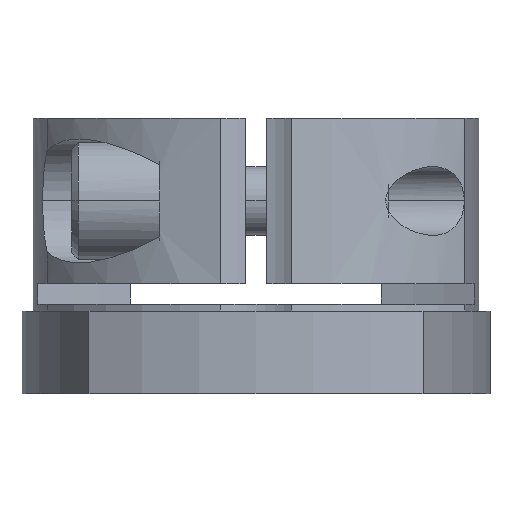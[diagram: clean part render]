
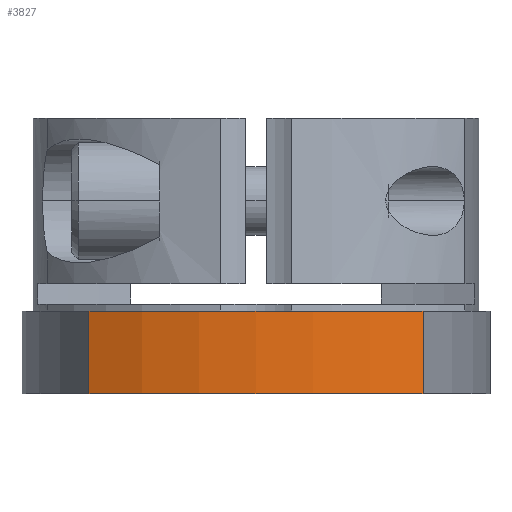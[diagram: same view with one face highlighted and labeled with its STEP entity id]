
A CAD part, front view. The second image highlights one B-rep face of the part: STEP entity #3827.
In plain terms, the highlighted cylindrical face has radius 27.5 mm (diameter 55 mm), a partial arc.
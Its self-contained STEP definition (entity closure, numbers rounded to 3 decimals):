
#2926=CARTESIAN_POINT('',(-12.133,-24.679,3.0));
#2927=VERTEX_POINT('',#2926);
#2935=CARTESIAN_POINT('',(12.133,-24.679,3.0));
#2936=VERTEX_POINT('',#2935);
#2937=CARTESIAN_POINT('',(0.,0.,3.0));
#2938=DIRECTION('',(0.0,0.0,-1.0));
#2939=DIRECTION('',(1.0,0.0,0.0));
#2940=AXIS2_PLACEMENT_3D('',#2937,#2938,#2939);
#2941=CIRCLE('',#2940,27.5);
#2942=EDGE_CURVE('',#2936,#2927,#2941,.T.);
#3660=CARTESIAN_POINT('',(12.133,-24.679,-3.0));
#3661=VERTEX_POINT('',#3660);
#3662=CARTESIAN_POINT('',(-12.133,-24.679,-3.0));
#3663=VERTEX_POINT('',#3662);
#3664=CARTESIAN_POINT('',(0.,0.,-3.0));
#3665=DIRECTION('',(0.0,0.0,-1.0));
#3666=DIRECTION('',(1.0,0.0,0.0));
#3667=AXIS2_PLACEMENT_3D('',#3664,#3665,#3666);
#3668=CIRCLE('',#3667,27.5);
#3669=EDGE_CURVE('',#3661,#3663,#3668,.T.);
#3777=CARTESIAN_POINT('',(-12.133,-24.679,-3.0));
#3778=DIRECTION('',(0.0,0.0,1.0));
#3779=VECTOR('',#3778,6.0);
#3780=LINE('',#3777,#3779);
#3781=EDGE_CURVE('',#3663,#2927,#3780,.T.);
#3806=CARTESIAN_POINT('',(12.133,-24.679,-3.0));
#3807=DIRECTION('',(0.0,0.0,1.0));
#3808=VECTOR('',#3807,6.0);
#3809=LINE('',#3806,#3808);
#3810=EDGE_CURVE('',#3661,#2936,#3809,.T.);
#3816=CARTESIAN_POINT('',(0.,0.,-3.0));
#3817=DIRECTION('',(0.0,0.0,1.0));
#3818=DIRECTION('',(1.0,0.0,0.0));
#3819=AXIS2_PLACEMENT_3D('',#3816,#3817,#3818);
#3820=CYLINDRICAL_SURFACE('',#3819,27.5);
#3821=ORIENTED_EDGE('',*,*,#2942,.T.);
#3822=ORIENTED_EDGE('',*,*,#3781,.F.);
#3823=ORIENTED_EDGE('',*,*,#3669,.F.);
#3824=ORIENTED_EDGE('',*,*,#3810,.T.);
#3825=EDGE_LOOP('',(#3821,#3822,#3823,#3824));
#3826=FACE_OUTER_BOUND('',#3825,.T.);
#3827=ADVANCED_FACE('',(#3826),#3820,.T.);
